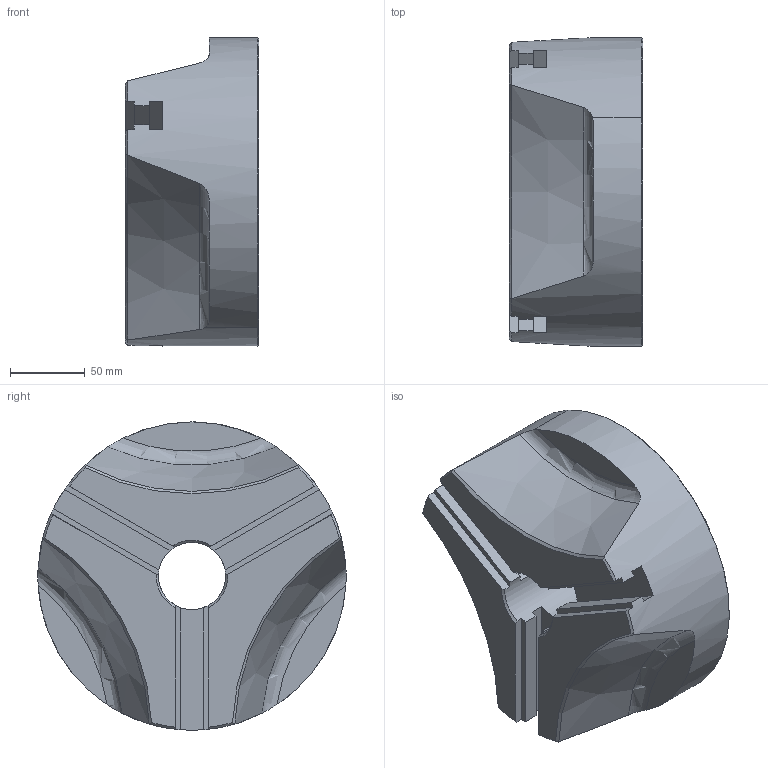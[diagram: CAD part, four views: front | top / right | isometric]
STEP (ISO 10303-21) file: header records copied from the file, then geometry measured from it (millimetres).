
FILE_DESCRIPTION(('CATIA V5 STEP Exchange'),'2;1');
FILE_NAME('D:\Clients_NCS8\Cenit-AG\Import\OKUMA250\C2.stp','2005-03-09T16:53:49+00:00',('none'),('none'),'CATIA Version 5 Release 14 (IN-10)','CATIA V5 STEP AP203','none');
FILE_SCHEMA(('CONFIG_CONTROL_DESIGN'));
Length unit declared in the file: millimetre
Products named in the file (2): okuma_dr-fr; Forkart_FNC200
Assembly tree (2 placements, depth 3):
  okuma_dr-fr
    Forkart_FNC200
      #62
Bounding box: 89 x 206 x 205.97 mm (x, y, z)
Volume: 2044393.5 mm3; surface area: 139915.9 mm2
Topology: 1 solids, 1 shells, 74 faces, 209 edges, 137 vertices
Faces by surface type: plane 41, cone 23, cylinder 7, torus 3
Entity records: 2323 total; most frequent: CARTESIAN_POINT 553, ORIENTED_EDGE 418, DIRECTION 250, EDGE_CURVE 209, VERTEX_POINT 137, AXIS2_PLACEMENT_3D 123, VECTOR 87, LINE 87
